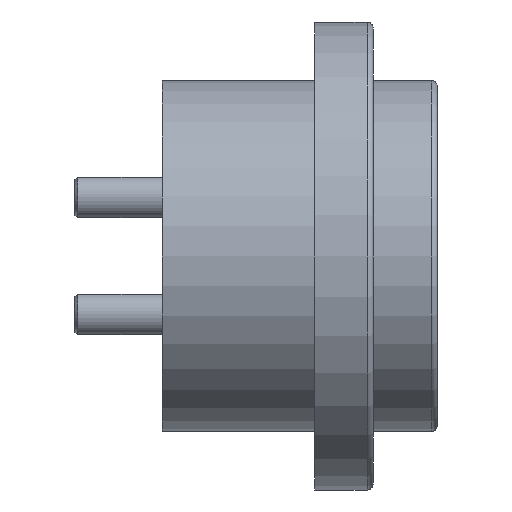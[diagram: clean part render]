
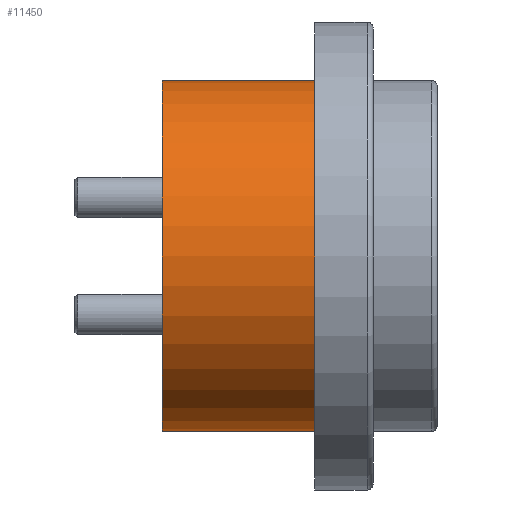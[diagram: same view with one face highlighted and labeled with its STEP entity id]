
A CAD part, left-side view. The second image highlights one B-rep face of the part: STEP entity #11450.
In plain terms, the highlighted cylindrical face has radius 3 mm (diameter 6 mm), a partial arc.
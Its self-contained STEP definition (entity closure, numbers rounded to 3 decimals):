
#7910=CARTESIAN_POINT('',(-11.042,12.32,
-3.595));
#7911=DIRECTION('',(0.,1.,0.));
#7912=DIRECTION('',(0.,0.,-1.));
#7913=AXIS2_PLACEMENT_3D('',#7910,#7911,#7912);
#8437=DIRECTION('',(0.,-1.,0.));
#8438=VECTOR('',#8437,3.1);
#8439=CARTESIAN_POINT('',(-11.042,12.32,
-6.595));
#8440=LINE('',#8439,#8438);
#8441=DIRECTION('',(0.,1.,0.));
#8442=VECTOR('',#8441,3.1);
#8443=CARTESIAN_POINT('',(-11.042,9.22,
-0.595));
#8444=LINE('',#8443,#8442);
#8494=CARTESIAN_POINT('',(-11.042,9.22,
-3.595));
#8495=DIRECTION('',(0.,-1.,0.));
#8496=DIRECTION('',(0.,0.,1.));
#8497=AXIS2_PLACEMENT_3D('',#8494,#8495,#8496);
#10338=CARTESIAN_POINT('',(-11.042,12.32,
-6.595));
#10339=VERTEX_POINT('',#10338);
#10340=CARTESIAN_POINT('',(-11.042,12.32,
-0.595));
#10341=VERTEX_POINT('',#10340);
#10502=CARTESIAN_POINT('',(-11.042,9.22,
-6.595));
#10503=VERTEX_POINT('',#10502);
#10504=CARTESIAN_POINT('',(-11.042,9.22,
-0.595));
#10505=VERTEX_POINT('',#10504);
#11437=CARTESIAN_POINT('',(-11.042,9.72,
-3.595));
#11438=DIRECTION('',(0.,-1.,0.));
#11439=DIRECTION('',(0.,0.,1.));
#11440=AXIS2_PLACEMENT_3D('',#11437,#11438,#11439);
#11441=CYLINDRICAL_SURFACE('',#11440,3.);
#11442=ORIENTED_EDGE('',*,*,#11386,.F.);
#11443=ORIENTED_EDGE('',*,*,#10985,.T.);
#11445=ORIENTED_EDGE('',*,*,#11444,.F.);
#11447=ORIENTED_EDGE('',*,*,#11446,.T.);
#11448=EDGE_LOOP('',(#11442,#11443,#11445,#11447));
#11449=FACE_OUTER_BOUND('',#11448,.F.);
#11450=ADVANCED_FACE('',(#11449),#11441,.T.);
#7914=CIRCLE('',#7913,3.);
#8498=CIRCLE('',#8497,3.);
#10985=EDGE_CURVE('',#10339,#10341,#7914,.T.);
#11386=EDGE_CURVE('',#10339,#10503,#8440,.T.);
#11444=EDGE_CURVE('',#10505,#10341,#8444,.T.);
#11446=EDGE_CURVE('',#10505,#10503,#8498,.T.);
